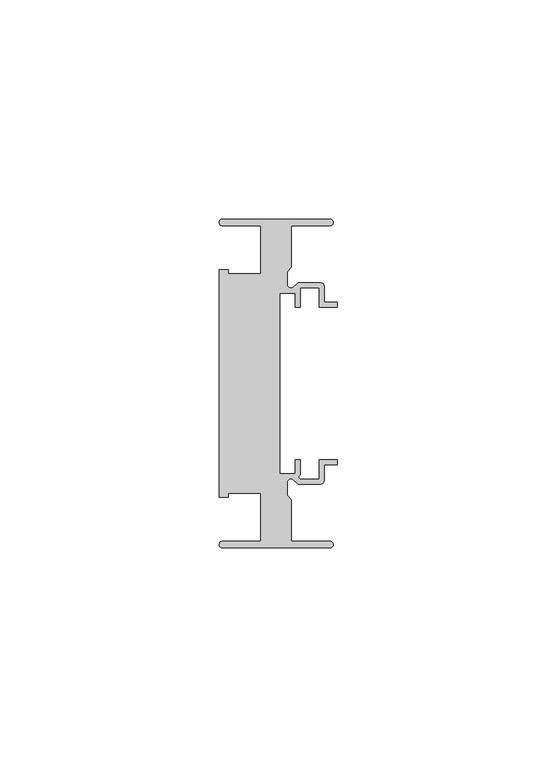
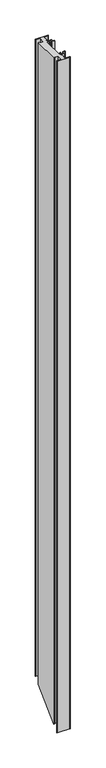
"""IFC4 building model written with IfcOpenShell, lengths in millimetres: member geometry, Прямоугольный импост : 7-AMG-2-Профиль 26Х75 Верх П."""

from ifc_helpers import new_model, si_unit, frame, origin, place, context, project, spatial, polyline, circle_curve, ellipse_curve, source, transform, mapped, element, save
from ifc_brep_helpers import plane_surface, cylinder_surface, revolved_surface, advanced_brep


def member_e85f4ef0(model_context):
    return source(origin(), model_context, "Body", "AdvancedBrep", [
        advanced_brep(
        [(-1.7, 37.5, 0.0), (-26.25, 37.5, 0.0), (-26.25, 36.0, 0.0), (-17.5, 36.0, 0.0), (-17.5, 25.0, 0.0), (-24.9359877, 25.0, 0.0), (-24.9359877, 26.0, 0.0), (-27.0, 26.0, 0.0), (-27.0, -26.0, 0.0), (-24.9359877, -26.0, 0.0), (-24.9359877, -25.0, 0.0), (-17.5, -25.0, 0.0), (-17.5, -36.0, 0.0), (-26.25, -36.0, 0.0), (-26.25, -37.5, 0.0), (-1.7, -37.5, 0.0), (-1.7, -36.0, 0.0), (-10.5, -36.0, 0.0), (-10.5, -26.5029437, 0.0), (-11.5, -25.5029437, 0.0), (-11.5, -22.6727922, 0.0), (-9.9636039, -22.0363961, 0.0), (-9.0, -23.0, 0.0), (-4.0, -23.0, 0.0), (-3.0, -22.0, 0.0), (-3.0, -18.55, 0.0), (0.0, -18.55, 0.0), (0.0, -17.35, 0.0), (-4.2, -17.35, 0.0), (-4.2, -21.8, 0.0), (-8.5029437, -21.8, 0.0), (-8.45, -20.8470563, 0.0), (-8.45, -17.35, 0.0), (-9.65, -17.35, 0.0), (-9.65, -20.55, 0.0), (-13.15, -20.55, 0.0), (-13.15, 20.55, 0.0), (-9.65, 20.55, 0.0), (-9.65, 17.35, 0.0), (-8.45, 17.35, 0.0), (-8.45, 21.8, 0.0), (-4.2, 21.8, 0.0), (-4.2, 17.35, 0.0), (0.0, 17.35, 0.0), (0.0, 18.55, 0.0), (-3.0, 18.55, 0.0), (-3.0, 22.0, 0.0), (-4.0, 23.0, 0.0), (-9.0, 23.0, 0.0), (-9.9636039, 22.0363961, 0.0), (-11.5, 22.6727922, 0.0), (-11.5, 25.5029437, 0.0), (-10.5, 26.5029437, 0.0), (-10.5, 36.0, 0.0), (-1.7, 36.0, 0.0), (-1.7, 37.5, -1321.1001349), (-26.25, 37.5, -1321.1001349), (-26.25, 36.0, -1322.6001349), (-17.5, 36.0, -1322.6001349), (-17.5, 25.0, -1333.6001349), (-24.9359877, 25.0, -1333.6001349), (-24.9359877, 26.0, -1332.6001349), (-27.0, 26.0, -1332.6001349), (-27.0, -26.0, -1384.6001349), (-24.9359877, -26.0, -1384.6001349), (-24.9359877, -25.0, -1383.6001349), (-17.5, -25.0, -1383.6001349), (-17.5, -36.0, -1394.6001349), (-26.25, -36.0, -1394.6001349), (-26.25, -37.5, -1396.1001349), (-1.7, -37.5, -1396.1001349), (-1.7, -36.0, -1394.6001349), (-10.5, -36.0, -1394.6001349), (-10.5, -26.5029437, -1385.1030786), (-11.5, -25.5029437, -1384.1030786), (-11.5, -22.6727922, -1381.2729271), (-9.9636039, -22.0363961, -1380.636531), (-9.0, -23.0, -1381.6001349), (-4.0, -23.0, -1381.6001349), (-3.0, -22.0, -1380.6001349), (-3.0, -18.55, -1377.1501349), (0.0, -18.55, -1377.1501349), (0.0, -17.35, -1375.9501349), (-4.2, -17.35, -1375.9501349), (-4.2, -21.8, -1380.4001349), (-8.5029437, -21.8, -1380.4001349), (-8.45, -20.8470563, -1379.4471911), (-8.45, -17.35, -1375.9501349), (-9.65, -17.35, -1375.9501349), (-9.65, -20.55, -1379.1501349), (-13.15, -20.55, -1379.1501349), (-13.15, 20.55, -1338.0501349), (-9.65, 20.55, -1338.0501349), (-9.65, 17.35, -1341.2501349), (-8.45, 17.35, -1341.2501349), (-8.45, 21.8, -1336.8001349), (-4.2, 21.8, -1336.8001349), (-4.2, 17.35, -1341.2501349), (0.0, 17.35, -1341.2501349), (0.0, 18.55, -1340.0501349), (-3.0, 18.55, -1340.0501349), (-3.0, 22.0, -1336.6001349), (-4.0, 23.0, -1335.6001349), (-9.0, 23.0, -1335.6001349), (-9.9636039, 22.0363961, -1336.5637388), (-11.5, 22.6727922, -1335.9273427), (-11.5, 25.5029437, -1333.0971911), (-10.5, 26.5029437, -1332.0971911), (-10.5, 36.0, -1322.6001349), (-1.7, 36.0, -1322.6001349)],
        [
            (0, 1),
            (1, 2, circle_curve(frame((-26.25, 36.75, 0.0), z_axis=(0.0, 0.0, 1.0), x_axis=(-1.0, 0.0, 0.0)), 0.75)),
            (2, 3),
            (3, 4),
            (4, 5),
            (5, 6),
            (6, 7),
            (7, 8),
            (8, 9),
            (9, 10),
            (10, 11),
            (11, 12),
            (12, 13),
            (13, 14, circle_curve(frame((-26.25, -36.75, 0.0), z_axis=(0.0, 0.0, 1.0), x_axis=(-1.0, 0.0, 0.0)), 0.75)),
            (14, 15),
            (15, 16, circle_curve(frame((-1.7, -36.75, 0.0), z_axis=(0.0, 0.0, 1.0), x_axis=(-1.0, 0.0, 0.0)), 0.75)),
            (16, 17),
            (17, 18),
            (18, 19),
            (19, 20),
            (20, 21, circle_curve(frame((-10.6, -22.6727922, 0.0), z_axis=(0.0, 0.0, -1.0), x_axis=(1.0, 0.0, 0.0)), 0.9)),
            (21, 22),
            (22, 23),
            (23, 24, circle_curve(frame((-4.0, -22.0, 0.0), z_axis=(0.0, 0.0, 1.0), x_axis=(1.0, 0.0, 0.0)), 1.0)),
            (24, 25),
            (25, 26),
            (26, 27),
            (27, 28),
            (28, 29),
            (29, 30),
            (30, 31, circle_curve(frame((-8.3343131, -21.3314262, 0.0), z_axis=(0.0, 0.0, -1.0), x_axis=(1.0, 0.0, 0.0)), 0.4979937)),
            (31, 32),
            (32, 33),
            (33, 34),
            (34, 35),
            (35, 36),
            (36, 37),
            (37, 38),
            (38, 39),
            (39, 40),
            (40, 41),
            (41, 42),
            (42, 43),
            (43, 44),
            (44, 45),
            (45, 46),
            (46, 47, circle_curve(frame((-4.0, 22.0, 0.0), z_axis=(0.0, 0.0, 1.0), x_axis=(1.0, 0.0, 0.0)), 1.0)),
            (47, 48),
            (48, 49),
            (49, 50, circle_curve(frame((-10.6, 22.6727922, 0.0), z_axis=(0.0, 0.0, -1.0), x_axis=(1.0, 0.0, 0.0)), 0.9)),
            (50, 51),
            (51, 52),
            (52, 53),
            (53, 54),
            (54, 0, circle_curve(frame((-1.7, 36.75, 0.0), z_axis=(0.0, 0.0, 1.0), x_axis=(-1.0, 0.0, 0.0)), 0.75)),
            (0, 55),
            (55, 56),
            (56, 1),
            (56, 57, ellipse_curve(frame((-26.25, 36.75, -1321.8501349), z_axis=(0.0, -0.7071067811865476, 0.7071067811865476), x_axis=(0.0, 0.7071067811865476, 0.7071067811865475)), 1.0606602, 0.75)),
            (57, 2),
            (57, 58),
            (58, 3),
            (58, 59),
            (59, 4),
            (59, 60),
            (60, 5),
            (60, 61),
            (61, 6),
            (61, 62),
            (62, 7),
            (62, 63),
            (63, 8),
            (63, 64),
            (64, 9),
            (64, 65),
            (65, 10),
            (65, 66),
            (66, 11),
            (66, 67),
            (67, 12),
            (67, 68),
            (68, 13),
            (68, 69, ellipse_curve(frame((-26.25, -36.75, -1395.3501349), z_axis=(0.0, -0.7071067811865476, 0.7071067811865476), x_axis=(0.0, 0.7071067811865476, 0.7071067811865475)), 1.0606602, 0.75)),
            (69, 14),
            (69, 70),
            (70, 15),
            (70, 71, ellipse_curve(frame((-1.7, -36.75, -1395.3501349), z_axis=(0.0, -0.7071067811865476, 0.7071067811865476), x_axis=(0.0, 0.7071067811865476, 0.7071067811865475)), 1.0606602, 0.75)),
            (71, 16),
            (71, 72),
            (72, 17),
            (72, 73),
            (73, 18),
            (73, 74),
            (74, 19),
            (74, 75),
            (75, 20),
            (75, 76, ellipse_curve(frame((-10.6, -22.6727922, -1381.2729271), z_axis=(0.0, 0.7071067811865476, -0.7071067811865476), x_axis=(0.0, -0.7071067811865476, -0.7071067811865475)), 1.2727922, 0.9)),
            (76, 21),
            (76, 77),
            (77, 22),
            (77, 78),
            (78, 23),
            (78, 79, ellipse_curve(frame((-4.0, -22.0, -1380.6001349), z_axis=(0.0, -0.7071067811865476, 0.7071067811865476), x_axis=(0.0, 0.7071067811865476, 0.7071067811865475)), 1.4142136, 1.0)),
            (79, 24),
            (79, 80),
            (80, 25),
            (80, 81),
            (81, 26),
            (81, 82),
            (82, 27),
            (82, 83),
            (83, 28),
            (83, 84),
            (84, 29),
            (84, 85),
            (85, 30),
            (85, 86, ellipse_curve(frame((-8.3343131, -21.3314262, -1379.9315611), z_axis=(0.0, 0.7071067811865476, -0.7071067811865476), x_axis=(0.0, -0.7071067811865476, -0.7071067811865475)), 0.7042694, 0.4979937)),
            (86, 31),
            (86, 87),
            (87, 32),
            (87, 88),
            (88, 33),
            (88, 89),
            (89, 34),
            (89, 90),
            (90, 35),
            (90, 91),
            (91, 36),
            (91, 92),
            (92, 37),
            (92, 93),
            (93, 38),
            (93, 94),
            (94, 39),
            (94, 95),
            (95, 40),
            (95, 96),
            (96, 41),
            (96, 97),
            (97, 42),
            (97, 98),
            (98, 43),
            (98, 99),
            (99, 44),
            (99, 100),
            (100, 45),
            (100, 101),
            (101, 46),
            (101, 102, ellipse_curve(frame((-4.0, 22.0, -1336.6001349), z_axis=(0.0, -0.7071067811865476, 0.7071067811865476), x_axis=(0.0, 0.7071067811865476, 0.7071067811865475)), 1.4142136, 1.0)),
            (102, 47),
            (102, 103),
            (103, 48),
            (103, 104),
            (104, 49),
            (104, 105, ellipse_curve(frame((-10.6, 22.6727922, -1335.9273427), z_axis=(0.0, 0.7071067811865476, -0.7071067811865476), x_axis=(0.0, -0.7071067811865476, -0.7071067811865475)), 1.2727922, 0.9)),
            (105, 50),
            (105, 106),
            (106, 51),
            (106, 107),
            (107, 52),
            (107, 108),
            (108, 53),
            (108, 109),
            (109, 54),
            (109, 55, ellipse_curve(frame((-1.7, 36.75, -1321.8501349), z_axis=(0.0, -0.7071067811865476, 0.7071067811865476), x_axis=(0.0, 0.7071067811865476, 0.7071067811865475)), 1.0606602, 0.75)),
        ],
        [
            plane_surface(frame((0.0, -45.7745836, 0.0), z_axis=(0.0, 0.0, 1.0), x_axis=(-1.0, 0.0, 0.0))),
            plane_surface(frame((-1.7, 37.5, 0.0), z_axis=(0.0, 1.0, 0.0), x_axis=(0.0, 0.0, -1.0))),
            cylinder_surface(frame((-26.25, 36.75, 0.0), z_axis=(0.0, 0.0, 1.0), x_axis=(-1.0, 0.0, 0.0)), 0.75),
            plane_surface(frame((-26.25, 36.0, 0.0), z_axis=(0.0, -1.0, 0.0), x_axis=(0.0, 0.0, -1.0))),
            plane_surface(frame((-17.5, 36.0, 0.0), z_axis=(-1.0, 0.0, 0.0), x_axis=(0.0, 0.0, -1.0))),
            plane_surface(frame((-17.5, 25.0, 0.0), z_axis=(0.0, 1.0, 0.0), x_axis=(0.0, 0.0, -1.0))),
            plane_surface(frame((-24.9359877, 25.0, 0.0), z_axis=(1.0, 0.0, 0.0), x_axis=(0.0, 0.0, -1.0))),
            plane_surface(frame((-24.9359877, 26.0, 0.0), z_axis=(0.0, 1.0, 0.0), x_axis=(0.0, 0.0, -1.0))),
            plane_surface(frame((-27.0, 26.0, 0.0), z_axis=(-1.0, 0.0, 0.0), x_axis=(0.0, 0.0, -1.0))),
            plane_surface(frame((-27.0, -26.0, 0.0), z_axis=(0.0, -1.0, 0.0), x_axis=(0.0, 0.0, -1.0))),
            plane_surface(frame((-24.9359877, -26.0, 0.0), z_axis=(1.0, 0.0, 0.0), x_axis=(0.0, 0.0, -1.0))),
            plane_surface(frame((-24.9359877, -25.0, 0.0), z_axis=(0.0, -1.0, 0.0), x_axis=(0.0, 0.0, -1.0))),
            plane_surface(frame((-17.5, -25.0, 0.0), z_axis=(-1.0, 0.0, 0.0), x_axis=(0.0, 0.0, -1.0))),
            plane_surface(frame((-17.5, -36.0, 0.0), z_axis=(0.0, 1.0, 0.0), x_axis=(0.0, 0.0, -1.0))),
            cylinder_surface(frame((-26.25, -36.75, 0.0), z_axis=(0.0, 0.0, 1.0), x_axis=(-1.0, 0.0, 0.0)), 0.75),
            plane_surface(frame((-26.25, -37.5, 0.0), z_axis=(0.0, -1.0, 0.0), x_axis=(0.0, 0.0, -1.0))),
            cylinder_surface(frame((-1.7, -36.75, 0.0), z_axis=(0.0, 0.0, 1.0), x_axis=(-1.0, 0.0, 0.0)), 0.75),
            plane_surface(frame((-1.7, -36.0, 0.0), z_axis=(0.0, 1.0, 0.0), x_axis=(0.0, 0.0, -1.0))),
            plane_surface(frame((-10.5, -36.0, 0.0), z_axis=(1.0, 0.0, 0.0), x_axis=(0.0, 0.0, -1.0))),
            plane_surface(frame((-10.5, -26.5029437, 0.0), z_axis=(0.7071067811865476, 0.7071067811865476, 0.0), x_axis=(0.0, 0.0, -1.0))),
            plane_surface(frame((-11.5, -25.5029437, 0.0), z_axis=(1.0, 0.0, 0.0), x_axis=(0.0, 0.0, -1.0))),
            revolved_surface(polyline([(-9.7, -22.6727922, -1382.1729270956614), (-9.7, -22.6727922, 0.0)]), (-10.6, -22.6727922, 0.0), (0.0, 0.0, -1.0)),
            plane_surface(frame((-9.9636039, -22.0363961, 0.0), z_axis=(-0.7071067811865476, -0.7071067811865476, 0.0), x_axis=(0.0, 0.0, -1.0))),
            plane_surface(frame((-9.0, -23.0, 0.0), z_axis=(0.0, -1.0, 0.0), x_axis=(0.0, 0.0, -1.0))),
            cylinder_surface(frame((-4.0, -22.0, 0.0), z_axis=(0.0, 0.0, 1.0), x_axis=(1.0, 0.0, 0.0)), 1.0),
            plane_surface(frame((-3.0, -22.0, 0.0), z_axis=(1.0, 0.0, 0.0), x_axis=(0.0, 0.0, -1.0))),
            plane_surface(frame((-3.0, -18.55, 0.0), z_axis=(0.0, -1.0, 0.0), x_axis=(0.0, 0.0, -1.0))),
            plane_surface(frame((0.0, -18.55, 0.0), z_axis=(1.0, 0.0, 0.0), x_axis=(0.0, 0.0, -1.0))),
            plane_surface(frame((0.0, -17.35, 0.0), z_axis=(0.0, 1.0, 0.0), x_axis=(0.0, 0.0, -1.0))),
            plane_surface(frame((-4.2, -17.35, 0.0), z_axis=(-1.0, 0.0, 0.0), x_axis=(0.0, 0.0, -1.0))),
            plane_surface(frame((-4.2, -21.8, 0.0), z_axis=(0.0, 1.0, 0.0), x_axis=(0.0, 0.0, -1.0))),
            revolved_surface(polyline([(-7.836319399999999, -21.3314262, -1380.4295547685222), (-7.836319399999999, -21.3314262, 0.0)]), (-8.3343131, -21.3314262, 0.0), (0.0, 0.0, -1.0)),
            plane_surface(frame((-8.45, -20.8470563, 0.0), z_axis=(1.0, 0.0, 0.0), x_axis=(0.0, 0.0, -1.0))),
            plane_surface(frame((-8.45, -17.35, 0.0), z_axis=(0.0, 1.0, 0.0), x_axis=(0.0, 0.0, -1.0))),
            plane_surface(frame((-9.65, -17.35, 0.0), z_axis=(-1.0, 0.0, 0.0), x_axis=(0.0, 0.0, -1.0))),
            plane_surface(frame((-9.65, -20.55, 0.0), z_axis=(0.0, 1.0, 0.0), x_axis=(0.0, 0.0, -1.0))),
            plane_surface(frame((-13.15, -20.55, 0.0), z_axis=(1.0, 0.0, 0.0), x_axis=(0.0, 0.0, -1.0))),
            plane_surface(frame((-13.15, 20.55, 0.0), z_axis=(0.0, -1.0, 0.0), x_axis=(0.0, 0.0, -1.0))),
            plane_surface(frame((-9.65, 20.55, 0.0), z_axis=(-1.0, 0.0, 0.0), x_axis=(0.0, 0.0, -1.0))),
            plane_surface(frame((-9.65, 17.35, 0.0), z_axis=(0.0, -1.0, 0.0), x_axis=(0.0, 0.0, -1.0))),
            plane_surface(frame((-8.45, 17.35, 0.0), z_axis=(1.0, 0.0, 0.0), x_axis=(0.0, 0.0, -1.0))),
            plane_surface(frame((-8.45, 21.8, 0.0), z_axis=(0.0, -1.0, 0.0), x_axis=(0.0, 0.0, -1.0))),
            plane_surface(frame((-4.2, 21.8, 0.0), z_axis=(-1.0, 0.0, 0.0), x_axis=(0.0, 0.0, -1.0))),
            plane_surface(frame((-4.2, 17.35, 0.0), z_axis=(0.0, -1.0, 0.0), x_axis=(0.0, 0.0, -1.0))),
            plane_surface(frame((0.0, 17.35, 0.0), z_axis=(1.0, 0.0, 0.0), x_axis=(0.0, 0.0, -1.0))),
            plane_surface(frame((0.0, 18.55, 0.0), z_axis=(0.0, 1.0, 0.0), x_axis=(0.0, 0.0, -1.0))),
            plane_surface(frame((-3.0, 18.55, 0.0), z_axis=(1.0, 0.0, 0.0), x_axis=(0.0, 0.0, -1.0))),
            cylinder_surface(frame((-4.0, 22.0, 0.0), z_axis=(0.0, 0.0, 1.0), x_axis=(1.0, 0.0, 0.0)), 1.0),
            plane_surface(frame((-4.0, 23.0, 0.0), z_axis=(0.0, 1.0, 0.0), x_axis=(0.0, 0.0, -1.0))),
            plane_surface(frame((-9.0, 23.0, 0.0), z_axis=(-0.7071067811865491, 0.707106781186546, 0.0), x_axis=(0.0, 0.0, -1.0))),
            revolved_surface(polyline([(-9.7, 22.6727922, -1336.8273426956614), (-9.7, 22.6727922, 0.0)]), (-10.6, 22.6727922, 0.0), (0.0, 0.0, -1.0)),
            plane_surface(frame((-11.5, 22.6727922, 0.0), z_axis=(1.0, 0.0, 0.0), x_axis=(0.0, 0.0, -1.0))),
            plane_surface(frame((-11.5, 25.5029437, 0.0), z_axis=(0.7071067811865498, -0.7071067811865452, 0.0), x_axis=(0.0, 0.0, -1.0))),
            plane_surface(frame((-10.5, 26.5029437, 0.0), z_axis=(1.0, 0.0, 0.0), x_axis=(0.0, 0.0, -1.0))),
            plane_surface(frame((-10.5, 36.0, 0.0), z_axis=(0.0, -1.0, 0.0), x_axis=(0.0, 0.0, -1.0))),
            cylinder_surface(frame((-1.7, 36.75, 0.0), z_axis=(0.0, 0.0, 1.0), x_axis=(-1.0, 0.0, 0.0)), 0.75),
            plane_surface(frame((-304.8, 0.0, -1358.6001349), z_axis=(0.0, 0.7071067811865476, -0.7071067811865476), x_axis=(0.0, 0.7071067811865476, 0.7071067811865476))),
        ],
        [
            (0, [[1, 2, 3, 4, 5, 6, 7, 8, 9, 10, 11, 12, 13, 14, 15, 16, 17, 18, 19, 20, 21, 22, 23, 24, 25, 26, 27, 28, 29, 30, 31, 32, 33, 34, 35, 36, 37, 38, 39, 40, 41, 42, 43, 44, 45, 46, 47, 48, 49, 50, 51, 52, 53, 54, 55]]),
            (1, [[-1, 56, 57, 58]]),
            (2, [[-2, -58, 59, 60]]),
            (3, [[-3, -60, 61, 62]]),
            (4, [[-4, -62, 63, 64]]),
            (5, [[-5, -64, 65, 66]]),
            (6, [[-6, -66, 67, 68]]),
            (7, [[-7, -68, 69, 70]]),
            (8, [[-8, -70, 71, 72]]),
            (9, [[-9, -72, 73, 74]]),
            (10, [[-10, -74, 75, 76]]),
            (11, [[-11, -76, 77, 78]]),
            (12, [[-12, -78, 79, 80]]),
            (13, [[-13, -80, 81, 82]]),
            (14, [[-14, -82, 83, 84]]),
            (15, [[-15, -84, 85, 86]]),
            (16, [[-16, -86, 87, 88]]),
            (17, [[-17, -88, 89, 90]]),
            (18, [[-18, -90, 91, 92]]),
            (19, [[-19, -92, 93, 94]]),
            (20, [[-20, -94, 95, 96]]),
            (21, [[-21, -96, 97, 98]]),
            (22, [[-22, -98, 99, 100]]),
            (23, [[-23, -100, 101, 102]]),
            (24, [[-24, -102, 103, 104]]),
            (25, [[-25, -104, 105, 106]]),
            (26, [[-26, -106, 107, 108]]),
            (27, [[-27, -108, 109, 110]]),
            (28, [[-28, -110, 111, 112]]),
            (29, [[-29, -112, 113, 114]]),
            (30, [[-30, -114, 115, 116]]),
            (31, [[-31, -116, 117, 118]]),
            (32, [[-32, -118, 119, 120]]),
            (33, [[-33, -120, 121, 122]]),
            (34, [[-34, -122, 123, 124]]),
            (35, [[-35, -124, 125, 126]]),
            (36, [[-36, -126, 127, 128]]),
            (37, [[-37, -128, 129, 130]]),
            (38, [[-38, -130, 131, 132]]),
            (39, [[-39, -132, 133, 134]]),
            (40, [[-40, -134, 135, 136]]),
            (41, [[-41, -136, 137, 138]]),
            (42, [[-42, -138, 139, 140]]),
            (43, [[-43, -140, 141, 142]]),
            (44, [[-44, -142, 143, 144]]),
            (45, [[-45, -144, 145, 146]]),
            (46, [[-46, -146, 147, 148]]),
            (47, [[-47, -148, 149, 150]]),
            (48, [[-48, -150, 151, 152]]),
            (49, [[-49, -152, 153, 154]]),
            (50, [[-50, -154, 155, 156]]),
            (51, [[-51, -156, 157, 158]]),
            (52, [[-52, -158, 159, 160]]),
            (53, [[-53, -160, 161, 162]]),
            (54, [[-54, -162, 163, 164]]),
            (55, [[-55, -164, 165, -56]]),
            (56, [[-165, -163, -161, -159, -157, -155, -153, -151, -149, -147, -145, -143, -141, -139, -137, -135, -133, -131, -129, -127, -125, -123, -121, -119, -117, -115, -113, -111, -109, -107, -105, -103, -101, -99, -97, -95, -93, -91, -89, -87, -85, -83, -81, -79, -77, -75, -73, -71, -69, -67, -65, -63, -61, -59, -57]]),
        ],
    ),
    ])


if __name__ == "__main__":
    model = new_model("IFC4")
    model_context = context("Model", 3, world=origin())
    ifc_project = project(units=[si_unit("LENGTHUNIT", "METRE", prefix="MILLI")], contexts=[model_context])
    site = spatial("IfcSite", under=ifc_project)
    building = spatial("IfcBuilding", under=site)
    placement = place(None, origin())
    member_shape = member_e85f4ef0(model_context)
    element("IfcMember", 1, ObjectType="Прямоугольный импост : 7-AMG-2-Профиль 26Х75 Верх П", at=placement, inside=building, context=model_context, shape_type="MappedRepresentation", body=[
        mapped(member_shape, transform((0.0, 0.0, 0.0), x_axis=(1.0, 0.0, 0.0), y_axis=(0.0, 1.0, 0.0), z_axis=(0.0, 0.0, 1.0))),
    ])
    save(model, "model.ifc")
